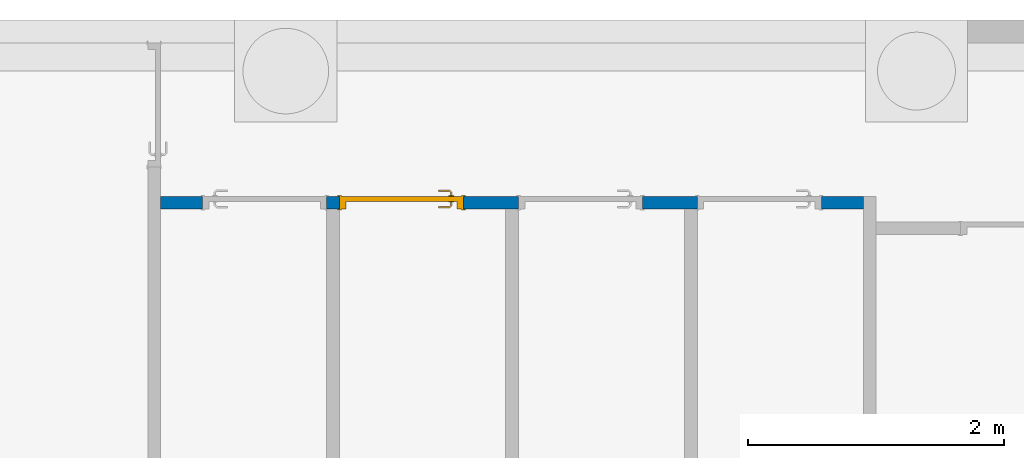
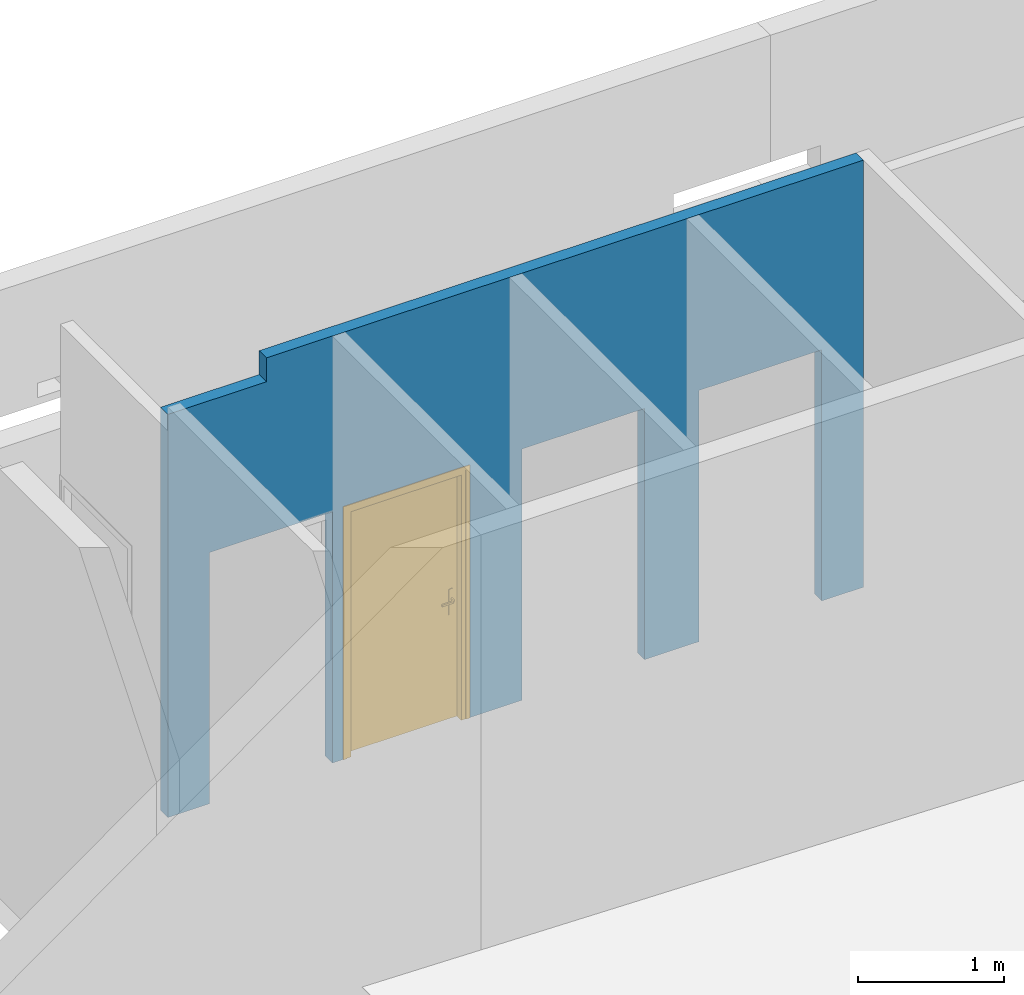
# One storey, part 4 of 14: 1 door, 1 wall, 4 openings.
"""IFC2X3 building model written with IfcOpenShell, lengths in centimetres."""

import ifcopenshell
import ifcopenshell.guid

model = None  # the IFC model being written
_history = None  # IfcOwnerHistory: only IFC2X3 demands one
_inside = {}  # id of a spatial element -> (the spatial element, [elements in it])
_under = {}  # id of a project, library or spatial element -> (it, [spatial elements below it])
_declared = {}  # id of a project -> (the project, [libraries it declares])
_typed = {}  # id of a type object -> (the type object, [elements of that type])
_made_of = {}  # id of a material, layer set ... -> (it, [elements and type objects made of it])


def new_model(schema):
    """Start an empty IFC model of exactly this schema.

    Asked for "IFC4X3", IfcOpenShell would pick the latest addendum, in which some entities
    have other attributes; the version numbers below select the first issue.
    IFC2X3 requires an IfcOwnerHistory on every rooted entity: one is made here for all.
    """
    global model, _history
    if schema == "IFC4X3":
        model = ifcopenshell.file(schema_version=(4, 3, 0, 0))
    else:
        model = ifcopenshell.file(schema=schema)
    _inside.clear()
    _under.clear()
    _declared.clear()
    _typed.clear()
    _made_of.clear()
    _history = None
    if model.schema == "IFC2X3":
        org = make("IfcOrganization", Name="unknown")
        user = make(
            "IfcPersonAndOrganization",
            ThePerson=make("IfcPerson", FamilyName="unknown"),
            TheOrganization=org,
        )
        app = make(
            "IfcApplication",
            ApplicationDeveloper=org,
            Version="unknown",
            ApplicationFullName="unknown",
            ApplicationIdentifier="unknown",
        )
        _history = make(
            "IfcOwnerHistory",
            OwningUser=user,
            OwningApplication=app,
            ChangeAction="ADDED",
            CreationDate=0,
        )
    return model


def make(cls, **values):
    """One entity of the class cls with the attributes given. An attribute that is None is left unset."""
    return model.create_entity(
        cls, **{name: value for name, value in values.items() if value is not None}
    )


def entity(cls, *values):
    """Any entity or typed value of the class cls, its attributes in the order of the schema. None: left unset."""
    e = model.create_entity(cls)
    for i, value in enumerate(values):
        if value is not None:
            e[i] = value
    return e


def rooted(cls, **values):
    """An entity with a GlobalId (a new one), such as an element, a storey or a relation."""
    return make(cls, GlobalId=ifcopenshell.guid.new(), OwnerHistory=_history, **values)


def si_unit(unit_type, name, prefix=None):
    """IfcSIUnit, for example si_unit("LENGTHUNIT", "METRE", prefix="MILLI")."""
    return make("IfcSIUnit", UnitType=unit_type, Prefix=prefix, Name=name)


def converted_unit(unit_type, name, factor, base, dimensions=None, offset=None):
    """IfcConversionBasedUnit, such as the inch: factor (a typed value) times the base unit."""
    return make(
        "IfcConversionBasedUnit"
        if offset is None
        else "IfcConversionBasedUnitWithOffset",
        ConversionOffset=offset,
        Dimensions=None
        if dimensions is None
        else entity("IfcDimensionalExponents", *dimensions),
        UnitType=unit_type,
        Name=name,
        ConversionFactor=make(
            "IfcMeasureWithUnit", ValueComponent=factor, UnitComponent=base
        ),
    )


def derived_unit(unit_type, elements):
    """IfcDerivedUnit: a product of units, each with its exponent."""
    return make(
        "IfcDerivedUnit",
        Elements=[
            make("IfcDerivedUnitElement", Unit=unit, Exponent=power)
            for unit, power in elements
        ],
        UnitType=unit_type,
    )


def assignment(units):
    """IfcUnitAssignment: the units of a project."""
    return None if units is None else make("IfcUnitAssignment", Units=units)


def point(xyz):
    """IfcCartesianPoint."""
    return None if xyz is None else make("IfcCartesianPoint", Coordinates=xyz)


def direction(xyz):
    """IfcDirection."""
    return None if xyz is None else make("IfcDirection", DirectionRatios=xyz)


def frame(location, z_axis=None, x_axis=None):
    """IfcAxis2Placement3D, a coordinate frame: its origin and axes. An axis left out is left unset."""
    return make(
        "IfcAxis2Placement3D",
        Location=point(location),
        Axis=direction(z_axis),
        RefDirection=direction(x_axis),
    )


def frame_2d(location, x_axis=None):
    """IfcAxis2Placement2D, a coordinate frame in the plane: its origin and x axis."""
    return make(
        "IfcAxis2Placement2D", Location=point(location), RefDirection=direction(x_axis)
    )


def origin():
    """The frame at (0, 0, 0) with its axes left unset."""
    return frame((0.0, 0.0, 0.0))


def place(relative_to, where):
    """IfcLocalPlacement: puts the frame where relative to a parent placement (None: the world)."""
    return make(
        "IfcLocalPlacement", PlacementRelTo=relative_to, RelativePlacement=where
    )


def context(
    kind, dimensions, precision=None, world=None, true_north=None, identifier=None
):
    """IfcGeometricRepresentationContext, for example the 3D "Model" context."""
    return make(
        "IfcGeometricRepresentationContext",
        ContextIdentifier=identifier,
        ContextType=kind,
        CoordinateSpaceDimension=dimensions,
        Precision=precision,
        WorldCoordinateSystem=world,
        TrueNorth=true_north,
    )


def subcontext(parent, identifier, kind, view, scale=None):
    """IfcGeometricRepresentationSubContext, for example "Body" below "Model"."""
    return make(
        "IfcGeometricRepresentationSubContext",
        ContextIdentifier=identifier,
        ContextType=kind,
        ParentContext=parent,
        TargetScale=scale,
        TargetView=view,
    )


def project(units=None, contexts=None):
    """IfcProject with its units and contexts."""
    return rooted(
        "IfcProject",
        Name="project",
        RepresentationContexts=contexts,
        UnitsInContext=assignment(units),
    )


def spatial(cls, under=None, at=None, **own):
    """A site, building, storey or space (cls), placed at a placement, below another one or the project."""
    s = rooted(cls, ObjectPlacement=at, **own)
    if under is not None:
        _under.setdefault(under.id(), (under, []))[1].append(s)
    return s


def polyline(points):
    """IfcPolyline through the points."""
    return make("IfcPolyline", Points=[point(p) for p in points])


def profile(cls, at=None, kind="AREA", **sizes):
    """A parametric profile (cls). Its sizes go by their IFC names, for example OverallWidth=200.0."""
    return make(cls, ProfileType=kind, Position=at, **sizes)


def rectangle(**sizes):
    """IfcRectangleProfileDef."""
    return profile("IfcRectangleProfileDef", **sizes)


def extrude(swept, where, along, depth):
    """IfcExtrudedAreaSolid: the profile swept, set in the frame where, extruded along a direction by depth."""
    return make(
        "IfcExtrudedAreaSolid",
        SweptArea=swept,
        Position=where,
        ExtrudedDirection=direction(along),
        Depth=depth,
    )


def clip(a, b, op="DIFFERENCE"):
    """IfcBooleanClippingResult: the solid a cut by the half space b."""
    return make(
        "IfcBooleanClippingResult", Operator=op, FirstOperand=a, SecondOperand=b
    )


def bounded_halfspace(plane, agree, where, boundary):
    """IfcPolygonalBoundedHalfSpace: a half space limited to a polygon's prism."""
    return make(
        "IfcPolygonalBoundedHalfSpace",
        BaseSurface=make("IfcPlane", Position=plane),
        AgreementFlag=agree,
        Position=where,
        PolygonalBoundary=boundary,
    )


def faces_of(points, faces, orient=None, outer=None):
    """IfcFace entities. A face is a list of loops; a loop is a list of indices into points, from 0.

    orient and outer hold one flag for each loop. By default every Orientation is true, the
    first loop of a face is its IfcFaceOuterBound and the others are IfcFaceBound.
    """
    made = []
    for i, loops in enumerate(faces):
        bounds = []
        for j, loop in enumerate(loops):
            is_outer = j == 0 if outer is None else outer[i][j]
            bounds.append(
                make(
                    "IfcFaceOuterBound" if is_outer else "IfcFaceBound",
                    Bound=make("IfcPolyLoop", Polygon=[points[k] for k in loop]),
                    Orientation=True if orient is None else orient[i][j],
                )
            )
        made.append(make("IfcFace", Bounds=bounds))
    return made


def faceted_brep(points, faces, orient=None, outer=None, voids=None):
    """IfcFacetedBrep: a solid bounded by flat faces; with voids (closed shells), ...WithVoids."""
    shared = [point(p) for p in points]
    hull = make("IfcClosedShell", CfsFaces=faces_of(shared, faces, orient, outer))
    if voids is None:
        return make("IfcFacetedBrep", Outer=hull)
    return make(
        "IfcFacetedBrepWithVoids",
        Outer=hull,
        Voids=[
            make(cls, CfsFaces=faces_of(shared, fs, o, b)) for cls, fs, o, b in voids
        ],
    )


def shape(context_of_items, identifier, shape_type, items):
    """IfcShapeRepresentation: the items that make up one representation, for example the "Body"."""
    return make(
        "IfcShapeRepresentation",
        ContextOfItems=context_of_items,
        RepresentationIdentifier=identifier,
        RepresentationType=shape_type,
        Items=items,
    )


def source(mapping_origin, context_of_items, identifier, shape_type, items):
    """IfcRepresentationMap: a shape defined once, which mapped items show again and again."""
    return make(
        "IfcRepresentationMap",
        MappingOrigin=mapping_origin,
        MappedRepresentation=shape(context_of_items, identifier, shape_type, items),
    )


def transform(
    local_origin,
    x_axis=None,
    y_axis=None,
    z_axis=None,
    scale=None,
    scale2=None,
    scale3=None,
    uniform=True,
):
    """IfcCartesianTransformationOperator3D, or its non-uniform kind. x_axis, y_axis, z_axis: its Axis1, 2, 3."""
    if uniform:
        return make(
            "IfcCartesianTransformationOperator3D",
            Axis1=direction(x_axis),
            Axis2=direction(y_axis),
            LocalOrigin=point(local_origin),
            Scale=scale,
            Axis3=direction(z_axis),
        )
    return make(
        "IfcCartesianTransformationOperator3DnonUniform",
        Axis1=direction(x_axis),
        Axis2=direction(y_axis),
        LocalOrigin=point(local_origin),
        Scale=scale,
        Axis3=direction(z_axis),
        Scale2=scale2,
        Scale3=scale3,
    )


def mapped(mapping_source, mapping_target):
    """IfcMappedItem: shows the shape of a source again, moved by a transform."""
    return make(
        "IfcMappedItem", MappingSource=mapping_source, MappingTarget=mapping_target
    )


def material(Name=None, Category=None):
    """IfcMaterial."""
    return make("IfcMaterial", Name=Name, Category=Category)


def material_list(materials):
    """IfcMaterialList."""
    return make("IfcMaterialList", Materials=materials)


def layer(
    of_material, thickness, ventilated=None, Name=None, Category=None, Priority=None
):
    """IfcMaterialLayer: one layer of a wall or slab, of a material (None: an air gap)."""
    return make(
        "IfcMaterialLayer",
        Material=of_material,
        LayerThickness=thickness,
        IsVentilated=ventilated,
        Name=Name,
        Category=Category,
        Priority=Priority,
    )


def layer_set(layers, Name=None):
    """IfcMaterialLayerSet."""
    return make("IfcMaterialLayerSet", MaterialLayers=layers, LayerSetName=Name)


def layer_usage(for_layer_set, set_direction, sense, offset, extent=None):
    """IfcMaterialLayerSetUsage: how a layer set lies in its element."""
    return make(
        "IfcMaterialLayerSetUsage",
        ForLayerSet=for_layer_set,
        LayerSetDirection=set_direction,
        DirectionSense=sense,
        OffsetFromReferenceLine=offset,
        ReferenceExtent=extent,
    )


def made_of(thing, what):
    """Note that an element or type object is made of a material, layer set ...; save() writes the relation."""
    if what is not None:
        _made_of.setdefault(what.id(), (what, []))[1].append(thing)
    return thing


def type_object(cls, material=None, **own):
    """A type object (cls), such as IfcWallType, which elements share."""
    return made_of(rooted(cls, **own), material)


def type_shapes(of_type, sources):
    """Give a type object the sources (RepresentationMaps) that its elements show as mapped items."""
    of_type.RepresentationMaps = sources


def element(
    cls,
    number,
    at=None,
    inside=None,
    cuts=None,
    type_object=None,
    material=None,
    context=None,
    identifier="Body",
    shape_type=None,
    held_by="IfcProductDefinitionShape",
    body=None,
    shapes=None,
    **own,
):
    """One element of the class cls, such as IfcWall. Its Tag is "e" and its number.

    at: its placement. inside: the storey or other place that contains it. cuts: it is an
    opening in that element (IfcRelVoidsElement). A single representation is given by context,
    identifier, shape_type and body (its items); several are given by shapes. held_by: the class
    of the entity that holds the representations. save() writes the other relations.
    """
    e = rooted(cls, Tag="e%d" % number, ObjectPlacement=at, **own)
    if body is not None:
        shapes = [shape(context, identifier, shape_type, body)]
    if shapes is not None:
        e.Representation = make(held_by, Representations=shapes)
    if inside is not None:
        _inside.setdefault(inside.id(), (inside, []))[1].append(e)
    if cuts is not None:
        rooted(
            "IfcRelVoidsElement", RelatingBuildingElement=cuts, RelatedOpeningElement=e
        )
    if type_object is not None:
        _typed.setdefault(type_object.id(), (type_object, []))[1].append(e)
    return made_of(e, material)


def fill(opening, filler):
    """IfcRelFillsElement: the door or window that sits in an opening."""
    return rooted(
        "IfcRelFillsElement",
        RelatingOpeningElement=opening,
        RelatedBuildingElement=filler,
    )


def aggregate(whole, parts):
    """IfcRelAggregates: a whole, such as a stair, and the parts it consists of."""
    return rooted("IfcRelAggregates", RelatingObject=whole, RelatedObjects=parts)


def save(model, path):
    """Write the relations noted so far, then the file.

    IfcRelAggregates (storeys below a building ...), IfcRelContainedInSpatialStructure (elements
    in a storey), IfcRelDefinesByType, IfcRelAssociatesMaterial and IfcRelDeclares: one each for
    every whole, place, type object, material and project.
    """
    for whole, parts in _under.values():
        aggregate(whole, parts)
    for where, things in _inside.values():
        rooted(
            "IfcRelContainedInSpatialStructure",
            RelatedElements=things,
            RelatingStructure=where,
        )
    for kind, things in _typed.values():
        rooted("IfcRelDefinesByType", RelatedObjects=things, RelatingType=kind)
    for what, things in _made_of.values():
        rooted("IfcRelAssociatesMaterial", RelatedObjects=things, RelatingMaterial=what)
    for by, libraries in _declared.values():
        rooted("IfcRelDeclares", RelatingContext=by, RelatedDefinitions=libraries)
    model.write(path)


model = new_model("IFC2X3")

# Units and contexts
model_context = context("Model", 3, precision=0.001, world=origin(), true_north=direction((6.12303176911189e-17, 1.0)))
body_context = subcontext(model_context, "Body", "Model", "MODEL_VIEW")
ifc_project = project(units=[si_unit("LENGTHUNIT", "METRE", prefix="CENTI"), si_unit("AREAUNIT", "SQUARE_METRE"), si_unit("VOLUMEUNIT", "CUBIC_METRE"), converted_unit("PLANEANGLEUNIT", "DEGREE", entity("IfcRatioMeasure", 0.0174532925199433), si_unit("PLANEANGLEUNIT", "RADIAN"), dimensions=[0, 0, 0, 0, 0, 0, 0]), si_unit("MASSUNIT", "GRAM", prefix="KILO"), derived_unit("MASSDENSITYUNIT", [(si_unit("MASSUNIT", "GRAM", prefix="KILO"), 1), (si_unit("LENGTHUNIT", "METRE"), -3)]), si_unit("TIMEUNIT", "SECOND"), si_unit("FREQUENCYUNIT", "HERTZ"), si_unit("THERMODYNAMICTEMPERATUREUNIT", "DEGREE_CELSIUS"), derived_unit("THERMALTRANSMITTANCEUNIT", [(si_unit("MASSUNIT", "GRAM", prefix="KILO"), 1), (si_unit("THERMODYNAMICTEMPERATUREUNIT", "KELVIN"), -1), (si_unit("TIMEUNIT", "SECOND"), -3)]), derived_unit("VOLUMETRICFLOWRATEUNIT", [(si_unit("LENGTHUNIT", "METRE"), 3), (si_unit("TIMEUNIT", "SECOND"), -1)]), si_unit("ELECTRICCURRENTUNIT", "AMPERE"), si_unit("ELECTRICVOLTAGEUNIT", "VOLT"), si_unit("POWERUNIT", "WATT"), si_unit("FORCEUNIT", "NEWTON"), si_unit("ILLUMINANCEUNIT", "LUX"), si_unit("LUMINOUSFLUXUNIT", "LUMEN"), si_unit("LUMINOUSINTENSITYUNIT", "CANDELA"), derived_unit("USERDEFINED", [(si_unit("MASSUNIT", "GRAM", prefix="KILO"), -1), (si_unit("LENGTHUNIT", "METRE"), -2), (si_unit("TIMEUNIT", "SECOND"), 3), (si_unit("LUMINOUSFLUXUNIT", "LUMEN"), 1)]), derived_unit("LINEARVELOCITYUNIT", [(si_unit("LENGTHUNIT", "METRE"), 1), (si_unit("TIMEUNIT", "SECOND"), -1)]), si_unit("PRESSUREUNIT", "PASCAL"), derived_unit("USERDEFINED", [(si_unit("LENGTHUNIT", "METRE"), -2), (si_unit("MASSUNIT", "GRAM", prefix="KILO"), 1), (si_unit("TIMEUNIT", "SECOND"), -2)])], contexts=[model_context])

# Site, building, storey
site_placement = place(None, origin())
site = spatial("IfcSite", under=ifc_project, at=site_placement, Name="Default", CompositionType="ELEMENT")
building_placement = place(site_placement, origin())
building = spatial("IfcBuilding", under=site, at=building_placement, Name="CAGE 03", CompositionType="ELEMENT")
storey_placement = place(building_placement, frame((0.0, 0.0, -42.0)))
storey = spatial("IfcBuildingStorey", under=building, at=storey_placement, Name="+3.58", CompositionType="ELEMENT", Elevation=-42.0000000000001)

# Wall, openings, door
ifc_material_1 = material(Name="Bloc béton")
ifc_layer = layer(ifc_material_1, 10.0)
ifc_layer_set = layer_set([ifc_layer], Name="Mur de base:Int. Parpaing 100 mm")
ifc_layer_usage = layer_usage(ifc_layer_set, "AXIS2", "NEGATIVE", 5.0)
wall_type = type_object("IfcWallType", Name="Mur de base:Int. Parpaing 100 mm", PredefinedType="STANDARD", material=ifc_layer_set)
wall_placement = place(storey_placement, frame((9206.36582014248, 5150.66066607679, 0.0)))
wall = element("IfcWallStandardCase", 1, at=wall_placement, inside=storey, type_object=wall_type, material=ifc_layer_usage, Name="Mur de base:Int. Parpaing 100 mm", ObjectType="Mur de base:Int. Parpaing 100 mm", context=body_context, shape_type="Clipping", body=[
    clip(clip(extrude(rectangle(XDim=549.999999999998, YDim=9.99999999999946, at=frame_2d((274.999999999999, 4.04121180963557e-14), x_axis=(-1.0, 0.0))), origin(), (0.0, 0.0, 1.0), 357.0), bounded_halfspace(frame((78.0, -5.0, 337.0), z_axis=(0.0, 0.0, -1.0), x_axis=(0.0, -1.0, 0.0)), True, frame((78.0, -5.0, 337.0), z_axis=(0.0, 0.0, -1.0), x_axis=(0.0, -1.0, 0.0)), polyline([(0.0, 0.0), (0.0, 78.0), (-10.0, 78.0), (-10.0, 0.0), (0.0, 0.0)]))), bounded_halfspace(frame((78.0, 5.0, 337.0), z_axis=(1.0, 0.0, 0.0), x_axis=(0.0, 0.0, 1.0)), True, frame((78.0, 5.0, 337.0), z_axis=(1.0, 0.0, 0.0), x_axis=(0.0, 0.0, 1.0)), polyline([(0.0, 0.0), (20.0, 0.0), (20.0, 10.0), (0.0, 10.0), (0.0, 0.0)]))),
])
opening_1_placement = place(wall_placement, frame((420.0, -5.0, 0.0)))
element("IfcOpeningElement", 2, at=opening_1_placement, cuts=wall, Name="Int. Simple:HB93:1", ObjectType="Opening", context=body_context, shape_type="SweptSolid", body=[
    extrude(rectangle(XDim=210.000000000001, YDim=96.9999999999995, at=frame_2d((105.000000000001, 48.4999999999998), x_axis=(1.0, 0.0))), frame((0.0, 0.0, 0.0), z_axis=(0.0, 1.0, 0.0), x_axis=(0.0, 0.0, 1.0)), (0.0, 0.0, 1.0), 10.0),
])
opening_2_placement = place(wall_placement, frame((280.0, -5.0, 0.0)))
element("IfcOpeningElement", 3, at=opening_2_placement, cuts=wall, Name="Int. Simple:HB93:1", ObjectType="Opening", context=body_context, shape_type="SweptSolid", body=[
    extrude(rectangle(XDim=210.000000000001, YDim=96.9999999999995, at=frame_2d((105.000000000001, 48.4999999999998), x_axis=(1.0, 0.0))), frame((0.0, 0.0, 0.0), z_axis=(0.0, 1.0, 0.0), x_axis=(0.0, 0.0, 1.0)), (0.0, 0.0, 1.0), 10.0),
])
opening_3_placement = place(wall_placement, frame((33.0, -5.0, 0.0)))
element("IfcOpeningElement", 4, at=opening_3_placement, cuts=wall, Name="Int. Simple:HB93:1", ObjectType="Opening", context=body_context, shape_type="SweptSolid", body=[
    extrude(rectangle(XDim=210.000000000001, YDim=96.9999999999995, at=frame_2d((105.000000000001, 48.4999999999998), x_axis=(1.0, 0.0))), frame((0.0, 0.0, 0.0), z_axis=(0.0, 1.0, 0.0), x_axis=(0.0, 0.0, 1.0)), (0.0, 0.0, 1.0), 10.0),
])
opening_4_placement = place(wall_placement, frame((140.0, -5.0, 0.0)))
opening_4 = element("IfcOpeningElement", 5, at=opening_4_placement, cuts=wall, Name="Int. Simple:HB93:1", ObjectType="Opening", context=body_context, shape_type="SweptSolid", body=[
    extrude(rectangle(XDim=210.000000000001, YDim=96.9999999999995, at=frame_2d((105.000000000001, 48.4999999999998), x_axis=(1.0, 0.0))), frame((0.0, 0.0, 0.0), z_axis=(0.0, 1.0, 0.0), x_axis=(0.0, 0.0, 1.0)), (0.0, 0.0, 1.0), 10.0),
])
ifc_material_2 = material(Name="Finition Peinture - Blanc satiné")
ifc_material_3 = material(Name="Bois - Panneau de porte")
ifc_material_4 = material(Name="Bois - Cadre de porte")
ifc_material_list_1 = material_list([ifc_material_2, ifc_material_3, ifc_material_4])
ifc_material_list_2 = material_list([ifc_material_2, ifc_material_3, ifc_material_4])
door_style = type_object("IfcDoorStyle", Name="HB93", ConstructionType="NOTDEFINED", OperationType="SINGLE_SWING_LEFT", ParameterTakesPrecedence=False, Sizeable=False, material=ifc_material_list_2)
shared_shape = source(origin(), body_context, "Body", "Brep", [
    faceted_brep([(10.5352761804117, -0.500000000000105, 86.6003983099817), (11.5000000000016, -0.500000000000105, 87.0), (11.5000000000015, -0.500000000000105, 108.0), (10.5352761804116, -0.500000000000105, 108.399601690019), (9.50000000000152, -0.500000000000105, 108.535898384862), (8.46472381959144, -0.500000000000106, 108.399601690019), (7.50000000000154, -0.500000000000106, 108.0), (7.50000000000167, -0.500000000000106, 87.0), (8.46472381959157, -0.500000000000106, 86.6003983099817), (9.50000000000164, -0.500000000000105, 86.464101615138), (10.5352761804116, 0.0, 108.399601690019), (11.5000000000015, 0.0, 108.0), (11.5000000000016, 0.0, 87.0), (10.5352761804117, 0.0, 86.6003983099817), (9.50000000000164, 0.0, 86.464101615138), (8.46472381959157, 0.0, 86.6003983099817), (7.50000000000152, 0.0, 87.0), (7.50000000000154, 0.0, 108.0), (8.46472381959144, 0.0, 108.399601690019), (9.50000000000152, 0.0, 108.535898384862)], [[[0, 1, 2, 3, 4, 5, 6, 7, 8, 9]], [[10, 11, 12, 13, 14, 15, 16, 17, 18, 19]], [[16, 15, 8, 7]], [[8, 15, 14, 9]], [[14, 13, 0, 9]], [[13, 12, 1, 0]], [[2, 1, 12, 11]], [[11, 10, 3, 2]], [[3, 10, 19, 4]], [[19, 18, 5, 4]], [[18, 17, 6, 5]], [[7, 6, 17, 16]]]),
    faceted_brep([(10.5352761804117, 4.0, 86.6003983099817), (11.5000000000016, 4.0, 87.0), (11.5000000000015, 4.0, 108.0), (10.5352761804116, 4.0, 108.399601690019), (9.50000000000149, 4.0, 108.535898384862), (8.46472381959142, 4.0, 108.399601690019), (7.50000000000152, 4.0, 108.0), (7.50000000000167, 4.0, 87.0), (8.46472381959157, 4.0, 86.6003983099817), (9.50000000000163, 4.0, 86.464101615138), (10.5352761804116, 4.49999999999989, 108.399601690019), (11.5000000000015, 4.49999999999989, 108.0), (11.5000000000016, 4.49999999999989, 87.0), (10.5352761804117, 4.49999999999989, 86.6003983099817), (9.50000000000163, 4.49999999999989, 86.464101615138), (8.46472381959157, 4.49999999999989, 86.6003983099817), (7.50000000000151, 4.49999999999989, 87.0), (7.50000000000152, 4.49999999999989, 108.0), (8.46472381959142, 4.49999999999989, 108.399601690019), (9.50000000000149, 4.49999999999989, 108.535898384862)], [[[0, 1, 2, 3, 4, 5, 6, 7, 8, 9]], [[10, 11, 12, 13, 14, 15, 16, 17, 18, 19]], [[11, 10, 3, 2]], [[3, 10, 19, 4]], [[19, 18, 5, 4]], [[18, 17, 6, 5]], [[7, 6, 17, 16]], [[16, 15, 8, 7]], [[8, 15, 14, 9]], [[14, 13, 0, 9]], [[13, 12, 1, 0]], [[2, 1, 12, 11]]]),
    faceted_brep([(9.29747013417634, -0.500000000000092, 100.778044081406), (9.70252986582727, -0.50000000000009, 100.778044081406), (10.1000000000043, -0.500000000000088, 100.699999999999), (10.1000000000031, -0.500000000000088, 99.3000000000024), (9.70252986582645, -0.50000000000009, 99.2219559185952), (9.29747013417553, -0.500000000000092, 99.221955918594), (8.89999999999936, -0.500000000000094, 99.2999999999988), (8.89999999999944, -0.500000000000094, 100.7), (8.89999999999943, -3.26509507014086, 100.7), (9.29747013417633, -3.10045754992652, 100.778044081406), (10.9023585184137, -4.70534593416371, 100.778044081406), (11.0701397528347, -4.30028620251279, 100.778044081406), (9.70252986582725, -2.93267631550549, 100.778044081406), (10.1000000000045, -2.76803879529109, 100.7), (10.1000000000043, -2.76803879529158, 99.3000000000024), (9.70252986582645, -2.93267631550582, 99.2219559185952), (11.0701397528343, -4.30028620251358, 99.2219559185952), (10.9023585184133, -4.70534593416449, 99.221955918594), (9.29747013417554, -3.10045754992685, 99.221955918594), (8.89999999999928, -3.26509507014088, 99.2999999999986), (10.7377209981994, -5.10281606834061, 100.7), (11.2347772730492, -3.90281606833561, 100.7), (11.2347772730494, -3.90281606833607, 99.3000000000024), (10.7377209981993, -5.10281606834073, 99.2999999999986), (19.5018640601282, -5.1028160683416, 99.2999999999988), (19.5018640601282, -4.70534593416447, 99.221955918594), (19.5018640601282, -4.30028620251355, 99.2219559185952), (19.5018640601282, -3.90281606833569, 99.3000000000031), (19.5018640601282, -3.90281606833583, 100.7), (19.5018640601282, -4.30028620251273, 100.778044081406), (19.5018640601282, -4.70534593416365, 100.778044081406), (19.5018640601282, -5.10281606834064, 100.699999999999), (14.7307697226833, -5.10281606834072, 100.7), (15.28600190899, -4.5028160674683, 100.78786867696), (15.3683206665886, -3.9028160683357, 100.7), (15.3683206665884, -3.90281606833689, 99.3000000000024), (15.2860018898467, -4.50281607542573, 99.2121313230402), (14.7307700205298, -5.10281606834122, 99.2999999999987)], [[[0, 1, 2, 3, 4, 5, 6, 7]], [[8, 9, 0, 7]], [[9, 10, 11, 12, 1, 0]], [[12, 13, 2, 1]], [[3, 2, 13, 14]], [[14, 15, 4, 3]], [[15, 16, 17, 18, 5, 4]], [[18, 19, 6, 5]], [[7, 6, 19, 8]], [[20, 10, 9, 8]], [[11, 21, 13, 12]], [[14, 13, 21, 22]], [[22, 16, 15, 14]], [[17, 23, 19, 18]], [[8, 19, 23, 20]], [[24, 25, 26, 27, 28, 29, 30, 31]], [[32, 30, 33]], [[31, 30, 32]], [[10, 20, 32]], [[33, 34, 11]], [[21, 11, 34]], [[34, 29, 28]], [[30, 29, 33]], [[29, 34, 33]], [[10, 32, 33]], [[10, 33, 11]], [[22, 21, 34, 28, 27, 35]], [[35, 26, 36]], [[37, 36, 25]], [[22, 35, 16]], [[35, 27, 26]], [[24, 37, 25]], [[23, 17, 37]], [[37, 17, 36]], [[17, 16, 36]], [[16, 35, 36]], [[25, 36, 26]], [[20, 23, 37, 24, 31, 32]]]),
    faceted_brep([(9.29747013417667, 4.49999999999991, 100.778044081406), (8.89999999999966, 4.4999999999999, 100.7), (8.89999999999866, 4.4999999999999, 99.2999999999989), (9.2974701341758, 4.49999999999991, 99.221955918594), (9.70252986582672, 4.49999999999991, 99.2219559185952), (10.1000000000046, 4.49999999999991, 99.3000000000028), (10.1000000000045, 4.49999999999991, 100.7), (9.70252986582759, 4.49999999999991, 100.778044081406), (10.1000000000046, 6.7485204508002, 99.3000000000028), (10.1000000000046, 6.74852045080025, 100.7), (9.70252986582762, 6.91315797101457, 100.778044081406), (11.0838906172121, 8.29451872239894, 100.778044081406), (10.9161093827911, 8.69957845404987, 100.778044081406), (9.29747013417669, 7.0809392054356, 100.778044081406), (8.89999999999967, 7.24557672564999, 100.7), (8.89999999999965, 7.2455767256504, 99.2999999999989), (9.29747013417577, 7.08093920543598, 99.221955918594), (10.9161093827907, 8.69957845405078, 99.221955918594), (11.0838906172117, 8.29451872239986, 99.2219559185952), (9.7025298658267, 6.91315797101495, 99.2219559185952), (11.2485281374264, 7.89704858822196, 99.3000000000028), (11.2485281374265, 7.89704858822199, 100.7), (10.7514718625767, 9.09704858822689, 100.7), (10.751471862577, 9.0970485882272, 99.2999999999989), (19.504578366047, 7.89704858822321, 99.3000000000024), (19.504578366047, 8.29451872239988, 99.2219559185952), (19.504578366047, 8.6995784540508, 99.221955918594), (19.504578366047, 9.09704858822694, 99.2999999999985), (19.504578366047, 9.09704858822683, 100.7), (19.504578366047, 8.69957845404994, 100.778044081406), (19.504578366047, 8.29451872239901, 100.778044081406), (19.504578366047, 7.89704858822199, 100.7), (15.3765520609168, 7.89704858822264, 99.3000000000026), (15.3765532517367, 7.89704858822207, 100.7), (15.294234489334, 8.49704858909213, 100.78786867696), (14.7445205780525, 9.09704858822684, 100.7), (14.7445204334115, 9.09704858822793, 99.2999999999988), (15.2942345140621, 8.49704858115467, 99.2121313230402)], [[[0, 1, 2, 3, 4, 5, 6, 7]], [[6, 5, 8, 9]], [[9, 10, 7, 6]], [[10, 11, 12, 13, 0, 7]], [[13, 14, 1, 0]], [[2, 1, 14, 15]], [[15, 16, 3, 2]], [[16, 17, 18, 19, 4, 3]], [[19, 8, 5, 4]], [[9, 8, 20, 21]], [[21, 11, 10, 9]], [[12, 22, 14, 13]], [[15, 14, 22, 23]], [[23, 17, 16, 15]], [[18, 20, 8, 19]], [[24, 25, 26, 27, 28, 29, 30, 31]], [[21, 20, 32, 24, 31, 33]], [[33, 30, 34]], [[35, 34, 29]], [[21, 33, 11]], [[33, 31, 30]], [[28, 35, 29]], [[22, 12, 35]], [[35, 12, 34]], [[12, 11, 34]], [[11, 33, 34]], [[29, 34, 30]], [[22, 35, 28, 27, 36, 23]], [[36, 26, 37]], [[27, 26, 36]], [[17, 23, 36]], [[37, 32, 18]], [[20, 18, 32]], [[32, 25, 24]], [[26, 25, 37]], [[25, 32, 37]], [[17, 36, 37]], [[17, 37, 18]]]),
    faceted_brep([(3.50000000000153, 4.0, 206.5), (93.5000000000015, 4.0, 206.5), (93.5000000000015, 4.0, 0.0), (3.50000000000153, 4.0, 0.0), (3.50000000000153, 0.0, 206.5), (3.50000000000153, 0.0, 0.0), (93.5000000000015, 0.0, 0.0), (93.5000000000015, 0.0, 206.5)], [[[0, 1, 2, 3]], [[4, 5, 6, 7]], [[1, 0, 4, 7]], [[2, 1, 7, 6]], [[3, 2, 6, 5]], [[0, 3, 5, 4]]]),
    faceted_brep([(0.0, 0.0, 0.0), (0.0, 10.0, 0.0), (5.0, 10.0, 0.0), (5.0, 4.0, 0.0), (3.50000000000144, 4.0, 0.0), (3.50000000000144, 0.0, 0.0), (0.0, 0.0, 210.0), (0.0, 10.0, 210.0), (97.0, 10.0, 210.0), (97.0, 10.0, 0.0), (92.0, 10.0, 0.0), (92.0, 10.0, 205.0), (5.0, 10.0, 205.0), (5.0, 4.0, 205.0), (92.0, 4.0, 205.0), (92.0, 4.0, 0.0), (93.4999999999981, 4.0, 0.0), (93.4999999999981, 4.0, 206.5), (3.50000000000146, 4.0, 206.5), (3.50000000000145, 0.0, 206.5), (93.4999999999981, 0.0, 206.5), (93.4999999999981, 0.0, 0.0), (97.0, 0.0, 0.0), (97.0, 0.0, 210.0)], [[[0, 1, 2, 3, 4, 5]], [[1, 0, 6, 7]], [[2, 1, 7, 8, 9, 10, 11, 12]], [[3, 2, 12, 13]], [[4, 3, 13, 14, 15, 16, 17, 18]], [[5, 4, 18, 19]], [[0, 5, 19, 20, 21, 22, 23, 6]], [[8, 23, 22, 9]], [[22, 21, 16, 15, 10, 9]], [[14, 11, 10, 15]], [[20, 17, 16, 21]], [[7, 6, 23, 8]], [[13, 12, 11, 14]], [[19, 18, 17, 20]]]),
    faceted_brep([(1.5, 10.0, 0.0), (-1.49999999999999, 10.0, 0.0), (-1.49999999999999, 10.5000000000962, 0.0), (1.5, 10.5000000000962, 0.0), (1.5, 10.0, 208.500000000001), (95.4999999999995, 10.0, 208.500000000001), (95.4999999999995, 10.0, 0.0), (98.4999999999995, 10.0, 0.0), (98.4999999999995, 10.0, 211.500000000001), (-1.49999999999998, 10.0, 211.500000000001), (-1.49999999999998, 10.5000000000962, 211.500000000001), (98.4999999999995, 10.5000000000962, 211.500000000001), (98.4999999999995, 10.5000000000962, 0.0), (95.4999999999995, 10.5000000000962, 0.0), (95.4999999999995, 10.5000000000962, 208.500000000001), (1.50000000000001, 10.5000000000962, 208.500000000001)], [[[0, 1, 2, 3]], [[1, 0, 4, 5, 6, 7, 8, 9]], [[2, 1, 9, 10]], [[3, 2, 10, 11, 12, 13, 14, 15]], [[0, 3, 15, 4]], [[6, 13, 12, 7]], [[5, 14, 13, 6]], [[11, 8, 7, 12]], [[10, 9, 8, 11]], [[4, 15, 14, 5]]]),
    faceted_brep([(-1.49999999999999, -0.5, 0.0), (1.5, -0.5, 0.0), (1.5, -0.5, 208.500000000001), (95.4999999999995, -0.5, 208.500000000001), (95.4999999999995, -0.5, 0.0), (98.4999999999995, -0.5, 0.0), (98.4999999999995, -0.5, 211.500000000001), (-1.49999999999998, -0.5, 211.500000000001), (-1.49999999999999, 0.0, 0.0), (-1.49999999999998, 0.0, 211.500000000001), (1.5, 0.0, 0.0), (98.4999999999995, 0.0, 211.500000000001), (98.4999999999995, 0.0, 0.0), (95.4999999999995, 0.0, 0.0), (95.4999999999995, 0.0, 208.500000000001), (1.50000000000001, 0.0, 208.500000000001)], [[[0, 1, 2, 3, 4, 5, 6, 7]], [[8, 0, 7, 9]], [[10, 8, 9, 11, 12, 13, 14, 15]], [[1, 10, 15, 2]], [[3, 14, 13, 4]], [[11, 6, 5, 12]], [[9, 7, 6, 11]], [[2, 15, 14, 3]], [[4, 13, 12, 5]], [[1, 0, 8, 10]]]),
])
type_shapes(door_style, [shared_shape])
door_placement = place(opening_4_placement, frame((97.0, 10.0, 0.0), z_axis=(0.0, 0.0, 1.0), x_axis=(-1.0, 0.0, 0.0)))
door = element("IfcDoor", 6, at=door_placement, inside=storey, type_object=door_style, material=ifc_material_list_1, Name="Int. Simple:HB93", ObjectType="HB93", OverallHeight=210.000000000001, OverallWidth=96.9999999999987, context=body_context, shape_type="MappedRepresentation", body=[
    mapped(shared_shape, transform((0.0, 0.0, 0.0), scale=1.0)),
])
fill(opening_4, door)

save(model, "model.ifc")
